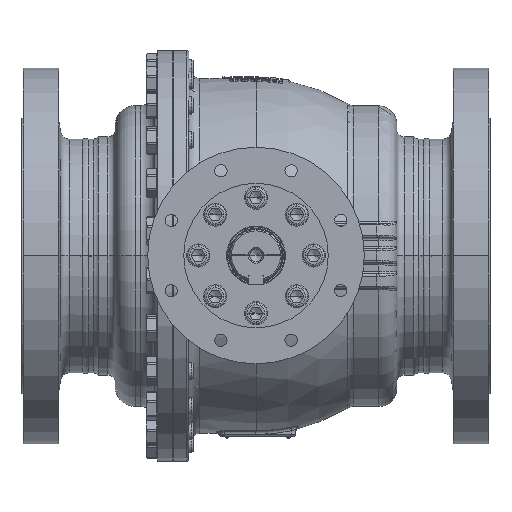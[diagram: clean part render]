
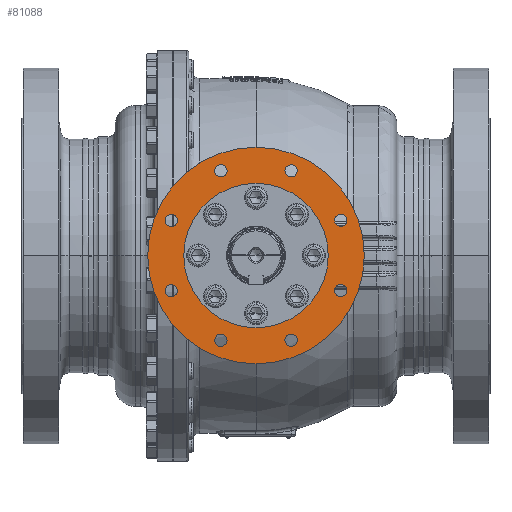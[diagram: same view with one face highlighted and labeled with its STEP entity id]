
A CAD part, top view. The second image highlights one B-rep face of the part: STEP entity #81088.
In plain terms, the highlighted planar face has unit normal (0, 0, 1).
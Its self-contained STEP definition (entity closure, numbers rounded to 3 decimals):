
#10369=CARTESIAN_POINT('',(0.,0.,376.));
#10370=DIRECTION('',(0.,0.,1.));
#10371=DIRECTION('',(0.,1.,0.));
#10372=AXIS2_PLACEMENT_3D('',#10369,#10370,#10371);
#10374=CARTESIAN_POINT('',(0.,0.,376.));
#10375=DIRECTION('',(0.,0.,-1.));
#10376=DIRECTION('',(0.,1.,0.));
#10377=AXIS2_PLACEMENT_3D('',#10374,#10375,#10376);
#10379=CARTESIAN_POINT('',(-48.601,-117.333,376.));
#10380=DIRECTION('',(0.,0.,-1.));
#10381=DIRECTION('',(0.,-1.,0.));
#10382=AXIS2_PLACEMENT_3D('',#10379,#10380,#10381);
#10384=CARTESIAN_POINT('',(-48.601,-117.333,376.));
#10385=DIRECTION('',(0.,0.,-1.));
#10386=DIRECTION('',(0.,1.,0.));
#10387=AXIS2_PLACEMENT_3D('',#10384,#10385,#10386);
#10389=CARTESIAN_POINT('',(-117.333,-48.601,376.));
#10390=DIRECTION('',(0.,0.,-1.));
#10391=DIRECTION('',(-0.707,-0.707,0.));
#10392=AXIS2_PLACEMENT_3D('',#10389,#10390,#10391);
#10394=CARTESIAN_POINT('',(-117.333,-48.601,376.));
#10395=DIRECTION('',(0.,0.,-1.));
#10396=DIRECTION('',(0.707,0.707,0.));
#10397=AXIS2_PLACEMENT_3D('',#10394,#10395,#10396);
#10399=CARTESIAN_POINT('',(-117.333,48.601,376.));
#10400=DIRECTION('',(0.,0.,-1.));
#10401=DIRECTION('',(-1.,0.,0.));
#10402=AXIS2_PLACEMENT_3D('',#10399,#10400,#10401);
#10404=CARTESIAN_POINT('',(-117.333,48.601,376.));
#10405=DIRECTION('',(0.,0.,-1.));
#10406=DIRECTION('',(1.,0.,0.));
#10407=AXIS2_PLACEMENT_3D('',#10404,#10405,#10406);
#10409=CARTESIAN_POINT('',(-48.601,117.333,376.));
#10410=DIRECTION('',(0.,0.,-1.));
#10411=DIRECTION('',(-0.707,0.707,0.));
#10412=AXIS2_PLACEMENT_3D('',#10409,#10410,#10411);
#10414=CARTESIAN_POINT('',(-48.601,117.333,376.));
#10415=DIRECTION('',(0.,0.,-1.));
#10416=DIRECTION('',(0.707,-0.707,0.));
#10417=AXIS2_PLACEMENT_3D('',#10414,#10415,#10416);
#10419=CARTESIAN_POINT('',(48.601,117.333,376.));
#10420=DIRECTION('',(0.,0.,-1.));
#10421=DIRECTION('',(0.,1.,0.));
#10422=AXIS2_PLACEMENT_3D('',#10419,#10420,#10421);
#10424=CARTESIAN_POINT('',(48.601,117.333,376.));
#10425=DIRECTION('',(0.,0.,-1.));
#10426=DIRECTION('',(0.,-1.,0.));
#10427=AXIS2_PLACEMENT_3D('',#10424,#10425,#10426);
#10429=CARTESIAN_POINT('',(117.333,48.601,376.));
#10430=DIRECTION('',(0.,0.,-1.));
#10431=DIRECTION('',(0.707,0.707,0.));
#10432=AXIS2_PLACEMENT_3D('',#10429,#10430,#10431);
#10434=CARTESIAN_POINT('',(117.333,48.601,376.));
#10435=DIRECTION('',(0.,0.,-1.));
#10436=DIRECTION('',(-0.707,-0.707,0.));
#10437=AXIS2_PLACEMENT_3D('',#10434,#10435,#10436);
#10439=CARTESIAN_POINT('',(117.333,-48.601,376.));
#10440=DIRECTION('',(0.,0.,-1.));
#10441=DIRECTION('',(1.,0.,0.));
#10442=AXIS2_PLACEMENT_3D('',#10439,#10440,#10441);
#10444=CARTESIAN_POINT('',(117.333,-48.601,376.));
#10445=DIRECTION('',(0.,0.,-1.));
#10446=DIRECTION('',(-1.,0.,0.));
#10447=AXIS2_PLACEMENT_3D('',#10444,#10445,#10446);
#10449=CARTESIAN_POINT('',(48.601,-117.333,376.));
#10450=DIRECTION('',(0.,0.,-1.));
#10451=DIRECTION('',(0.707,-0.707,0.));
#10452=AXIS2_PLACEMENT_3D('',#10449,#10450,#10451);
#10454=CARTESIAN_POINT('',(48.601,-117.333,376.));
#10455=DIRECTION('',(0.,0.,-1.));
#10456=DIRECTION('',(-0.707,0.707,0.));
#10457=AXIS2_PLACEMENT_3D('',#10454,#10455,#10456);
#10463=CARTESIAN_POINT('',(0.,0.,376.));
#10464=DIRECTION('',(0.,0.,-1.));
#10465=DIRECTION('',(0.,1.,0.));
#10466=AXIS2_PLACEMENT_3D('',#10463,#10464,#10465);
#10472=CARTESIAN_POINT('',(0.,0.,376.));
#10473=DIRECTION('',(0.,0.,1.));
#10474=DIRECTION('',(0.,1.,0.));
#10475=AXIS2_PLACEMENT_3D('',#10472,#10473,#10474);
#63430=CARTESIAN_POINT('',(0.,100.,376.));
#63432=VERTEX_POINT('',#63430);
#63434=CARTESIAN_POINT('',(0.,-100.,376.));
#63436=VERTEX_POINT('',#63434);
#63506=CARTESIAN_POINT('',(-48.601,-125.833,376.));
#63507=CARTESIAN_POINT('',(-48.601,-108.833,376.));
#63508=VERTEX_POINT('',#63506);
#63509=VERTEX_POINT('',#63507);
#63512=CARTESIAN_POINT('',(-123.343,-54.611,376.));
#63513=CARTESIAN_POINT('',(-111.322,-42.59,376.));
#63514=VERTEX_POINT('',#63512);
#63515=VERTEX_POINT('',#63513);
#63518=CARTESIAN_POINT('',(-125.833,48.601,376.));
#63519=CARTESIAN_POINT('',(-108.833,48.601,376.));
#63520=VERTEX_POINT('',#63518);
#63521=VERTEX_POINT('',#63519);
#63524=CARTESIAN_POINT('',(-54.611,123.343,376.));
#63525=CARTESIAN_POINT('',(-42.59,111.322,376.));
#63526=VERTEX_POINT('',#63524);
#63527=VERTEX_POINT('',#63525);
#63539=CARTESIAN_POINT('',(0.,150.,376.));
#63541=VERTEX_POINT('',#63539);
#63543=CARTESIAN_POINT('',(0.,-150.,376.));
#63545=VERTEX_POINT('',#63543);
#63554=CARTESIAN_POINT('',(48.601,125.833,376.));
#63555=CARTESIAN_POINT('',(48.601,108.833,376.));
#63556=VERTEX_POINT('',#63554);
#63557=VERTEX_POINT('',#63555);
#63562=CARTESIAN_POINT('',(123.343,54.611,376.));
#63563=CARTESIAN_POINT('',(111.322,42.59,376.));
#63564=VERTEX_POINT('',#63562);
#63565=VERTEX_POINT('',#63563);
#63570=CARTESIAN_POINT('',(125.833,-48.601,376.));
#63571=CARTESIAN_POINT('',(108.833,-48.601,376.));
#63572=VERTEX_POINT('',#63570);
#63573=VERTEX_POINT('',#63571);
#63578=CARTESIAN_POINT('',(54.611,-123.343,376.));
#63579=CARTESIAN_POINT('',(42.59,-111.322,376.));
#63580=VERTEX_POINT('',#63578);
#63581=VERTEX_POINT('',#63579);
#81025=CARTESIAN_POINT('',(0.,0.,376.));
#81026=DIRECTION('',(0.,0.,1.));
#81027=DIRECTION('',(0.,1.,0.));
#81028=AXIS2_PLACEMENT_3D('',#81025,#81026,#81027);
#81029=PLANE('',#81028);
#81030=ORIENTED_EDGE('',*,*,#81018,.F.);
#81031=ORIENTED_EDGE('',*,*,#81007,.T.);
#81032=EDGE_LOOP('',(#81030,#81031));
#81033=FACE_OUTER_BOUND('',#81032,.F.);
#81035=ORIENTED_EDGE('',*,*,#81034,.F.);
#81037=ORIENTED_EDGE('',*,*,#81036,.T.);
#81038=EDGE_LOOP('',(#81035,#81037));
#81039=FACE_BOUND('',#81038,.F.);
#81041=ORIENTED_EDGE('',*,*,#81040,.F.);
#81043=ORIENTED_EDGE('',*,*,#81042,.F.);
#81044=EDGE_LOOP('',(#81041,#81043));
#81045=FACE_BOUND('',#81044,.F.);
#81047=ORIENTED_EDGE('',*,*,#81046,.F.);
#81049=ORIENTED_EDGE('',*,*,#81048,.F.);
#81050=EDGE_LOOP('',(#81047,#81049));
#81051=FACE_BOUND('',#81050,.F.);
#81053=ORIENTED_EDGE('',*,*,#81052,.F.);
#81055=ORIENTED_EDGE('',*,*,#81054,.F.);
#81056=EDGE_LOOP('',(#81053,#81055));
#81057=FACE_BOUND('',#81056,.F.);
#81059=ORIENTED_EDGE('',*,*,#81058,.F.);
#81061=ORIENTED_EDGE('',*,*,#81060,.F.);
#81062=EDGE_LOOP('',(#81059,#81061));
#81063=FACE_BOUND('',#81062,.F.);
#81065=ORIENTED_EDGE('',*,*,#81064,.F.);
#81067=ORIENTED_EDGE('',*,*,#81066,.F.);
#81068=EDGE_LOOP('',(#81065,#81067));
#81069=FACE_BOUND('',#81068,.F.);
#81071=ORIENTED_EDGE('',*,*,#81070,.F.);
#81073=ORIENTED_EDGE('',*,*,#81072,.F.);
#81074=EDGE_LOOP('',(#81071,#81073));
#81075=FACE_BOUND('',#81074,.F.);
#81077=ORIENTED_EDGE('',*,*,#81076,.F.);
#81079=ORIENTED_EDGE('',*,*,#81078,.F.);
#81080=EDGE_LOOP('',(#81077,#81079));
#81081=FACE_BOUND('',#81080,.F.);
#81083=ORIENTED_EDGE('',*,*,#81082,.F.);
#81085=ORIENTED_EDGE('',*,*,#81084,.F.);
#81086=EDGE_LOOP('',(#81083,#81085));
#81087=FACE_BOUND('',#81086,.F.);
#81088=ADVANCED_FACE('',(#81033,#81039,#81045,#81051,#81057,#81063,#81069,
#81075,#81081,#81087),#81029,.T.);
#10373=CIRCLE('',#10372,150.);
#10378=CIRCLE('',#10377,150.);
#10383=CIRCLE('',#10382,8.5);
#10388=CIRCLE('',#10387,8.5);
#10393=CIRCLE('',#10392,8.5);
#10398=CIRCLE('',#10397,8.5);
#10403=CIRCLE('',#10402,8.5);
#10408=CIRCLE('',#10407,8.5);
#10413=CIRCLE('',#10412,8.5);
#10418=CIRCLE('',#10417,8.5);
#10423=CIRCLE('',#10422,8.5);
#10428=CIRCLE('',#10427,8.5);
#10433=CIRCLE('',#10432,8.5);
#10438=CIRCLE('',#10437,8.5);
#10443=CIRCLE('',#10442,8.5);
#10448=CIRCLE('',#10447,8.5);
#10453=CIRCLE('',#10452,8.5);
#10458=CIRCLE('',#10457,8.5);
#10467=CIRCLE('',#10466,100.);
#10476=CIRCLE('',#10475,100.);
#81007=EDGE_CURVE('',#63541,#63545,#10378,.T.);
#81018=EDGE_CURVE('',#63541,#63545,#10373,.T.);
#81034=EDGE_CURVE('',#63432,#63436,#10467,.T.);
#81036=EDGE_CURVE('',#63432,#63436,#10476,.T.);
#81040=EDGE_CURVE('',#63508,#63509,#10383,.T.);
#81042=EDGE_CURVE('',#63509,#63508,#10388,.T.);
#81046=EDGE_CURVE('',#63514,#63515,#10393,.T.);
#81048=EDGE_CURVE('',#63515,#63514,#10398,.T.);
#81052=EDGE_CURVE('',#63520,#63521,#10403,.T.);
#81054=EDGE_CURVE('',#63521,#63520,#10408,.T.);
#81058=EDGE_CURVE('',#63526,#63527,#10413,.T.);
#81060=EDGE_CURVE('',#63527,#63526,#10418,.T.);
#81064=EDGE_CURVE('',#63556,#63557,#10423,.T.);
#81066=EDGE_CURVE('',#63557,#63556,#10428,.T.);
#81070=EDGE_CURVE('',#63564,#63565,#10433,.T.);
#81072=EDGE_CURVE('',#63565,#63564,#10438,.T.);
#81076=EDGE_CURVE('',#63572,#63573,#10443,.T.);
#81078=EDGE_CURVE('',#63573,#63572,#10448,.T.);
#81082=EDGE_CURVE('',#63580,#63581,#10453,.T.);
#81084=EDGE_CURVE('',#63581,#63580,#10458,.T.);
